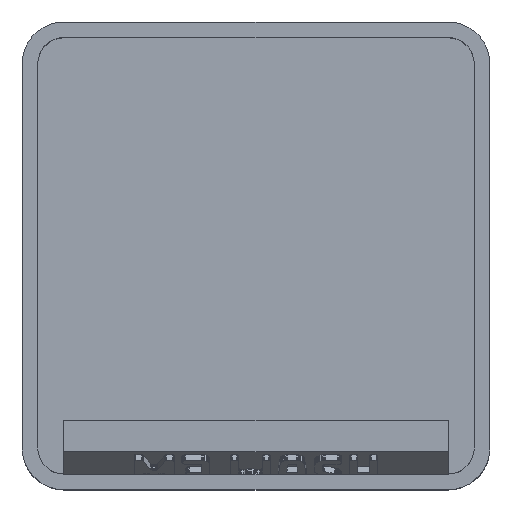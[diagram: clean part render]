
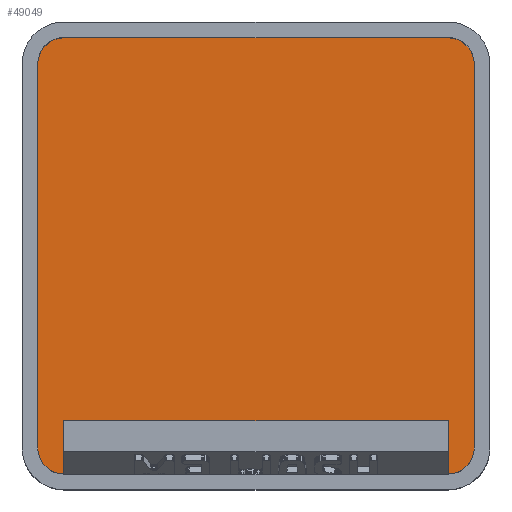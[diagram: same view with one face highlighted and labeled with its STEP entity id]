
A CAD part, top view. The second image highlights one B-rep face of the part: STEP entity #49049.
In plain terms, the highlighted planar face has unit normal (0, 0, 1).
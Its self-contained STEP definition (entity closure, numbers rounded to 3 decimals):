
#912 = PLANE('',#913);
#913 = AXIS2_PLACEMENT_3D('',#914,#915,#916);
#914 = CARTESIAN_POINT('',(-19.6,0.,21.));
#915 = DIRECTION('',(-1.,0.,0.));
#916 = DIRECTION('',(-0.,-1.,-0.));
#940 = CYLINDRICAL_SURFACE('',#941,2.35);
#941 = AXIS2_PLACEMENT_3D('',#942,#943,#944);
#942 = CARTESIAN_POINT('',(-17.25,17.25,5.95));
#943 = DIRECTION('',(-0.,-0.,1.));
#944 = DIRECTION('',(-1.,0.,0.));
#967 = PLANE('',#968);
#968 = AXIS2_PLACEMENT_3D('',#969,#970,#971);
#969 = CARTESIAN_POINT('',(0.,19.6,21.));
#970 = DIRECTION('',(0.,1.,0.));
#971 = DIRECTION('',(-1.,0.,0.));
#995 = CYLINDRICAL_SURFACE('',#996,2.35);
#996 = AXIS2_PLACEMENT_3D('',#997,#998,#999);
#997 = CARTESIAN_POINT('',(17.25,17.25,5.95));
#998 = DIRECTION('',(-0.,-0.,1.));
#999 = DIRECTION('',(-1.,0.,0.));
#1022 = PLANE('',#1023);
#1023 = AXIS2_PLACEMENT_3D('',#1024,#1025,#1026);
#1024 = CARTESIAN_POINT('',(19.6,0.,21.));
#1025 = DIRECTION('',(1.,0.,0.));
#1026 = DIRECTION('',(-0.,1.,0.));
#1050 = CYLINDRICAL_SURFACE('',#1051,2.35);
#1051 = AXIS2_PLACEMENT_3D('',#1052,#1053,#1054);
#1052 = CARTESIAN_POINT('',(17.25,-17.25,5.95));
#1053 = DIRECTION('',(-0.,-0.,1.));
#1054 = DIRECTION('',(-1.,0.,0.));
#1103 = CYLINDRICAL_SURFACE('',#1104,2.35);
#1104 = AXIS2_PLACEMENT_3D('',#1105,#1106,#1107);
#1105 = CARTESIAN_POINT('',(-17.25,-17.25,5.95));
#1106 = DIRECTION('',(-0.,-0.,1.));
#1107 = DIRECTION('',(-1.,0.,0.));
#17971 = EDGE_CURVE('',#17972,#17974,#17976,.T.);
#17972 = VERTEX_POINT('',#17973);
#17973 = CARTESIAN_POINT('',(-19.6,-17.25,5.95));
#17974 = VERTEX_POINT('',#17975);
#17975 = CARTESIAN_POINT('',(-19.6,17.25,5.95));
#17976 = SURFACE_CURVE('',#17977,(#17981,#17988),.PCURVE_S1.);
#17977 = LINE('',#17978,#17979);
#17978 = CARTESIAN_POINT('',(-19.6,0.,5.95));
#17979 = VECTOR('',#17980,1.);
#17980 = DIRECTION('',(0.,1.,0.));
#17981 = PCURVE('',#912,#17982);
#17982 = DEFINITIONAL_REPRESENTATION('',(#17983),#17987);
#17983 = LINE('',#17984,#17985);
#17984 = CARTESIAN_POINT('',(0.,-15.05));
#17985 = VECTOR('',#17986,1.);
#17986 = DIRECTION('',(-1.,0.));
#17987 = ( GEOMETRIC_REPRESENTATION_CONTEXT(2) 
PARAMETRIC_REPRESENTATION_CONTEXT() REPRESENTATION_CONTEXT('2D SPACE',''
  ) );
#17988 = PCURVE('',#17989,#17994);
#17989 = PLANE('',#17990);
#17990 = AXIS2_PLACEMENT_3D('',#17991,#17992,#17993);
#17991 = CARTESIAN_POINT('',(-17.25,-17.25,5.95));
#17992 = DIRECTION('',(0.,0.,-1.));
#17993 = DIRECTION('',(-1.,0.,0.));
#17994 = DEFINITIONAL_REPRESENTATION('',(#17995),#17999);
#17995 = LINE('',#17996,#17997);
#17996 = CARTESIAN_POINT('',(2.35,17.25));
#17997 = VECTOR('',#17998,1.);
#17998 = DIRECTION('',(0.,1.));
#17999 = ( GEOMETRIC_REPRESENTATION_CONTEXT(2) 
PARAMETRIC_REPRESENTATION_CONTEXT() REPRESENTATION_CONTEXT('2D SPACE',''
  ) );
#18046 = EDGE_CURVE('',#18047,#17972,#18049,.T.);
#18047 = VERTEX_POINT('',#18048);
#18048 = CARTESIAN_POINT('',(-17.25,-19.6,5.95));
#18049 = SURFACE_CURVE('',#18050,(#18055,#18062),.PCURVE_S1.);
#18050 = CIRCLE('',#18051,2.35);
#18051 = AXIS2_PLACEMENT_3D('',#18052,#18053,#18054);
#18052 = CARTESIAN_POINT('',(-17.25,-17.25,5.95));
#18053 = DIRECTION('',(0.,0.,-1.));
#18054 = DIRECTION('',(-1.,0.,0.));
#18055 = PCURVE('',#1103,#18056);
#18056 = DEFINITIONAL_REPRESENTATION('',(#18057),#18061);
#18057 = LINE('',#18058,#18059);
#18058 = CARTESIAN_POINT('',(6.283,0.));
#18059 = VECTOR('',#18060,1.);
#18060 = DIRECTION('',(-1.,0.));
#18061 = ( GEOMETRIC_REPRESENTATION_CONTEXT(2) 
PARAMETRIC_REPRESENTATION_CONTEXT() REPRESENTATION_CONTEXT('2D SPACE',''
  ) );
#18062 = PCURVE('',#17989,#18063);
#18063 = DEFINITIONAL_REPRESENTATION('',(#18064),#18068);
#18064 = CIRCLE('',#18065,2.35);
#18065 = AXIS2_PLACEMENT_2D('',#18066,#18067);
#18066 = CARTESIAN_POINT('',(0.,0.));
#18067 = DIRECTION('',(1.,0.));
#18068 = ( GEOMETRIC_REPRESENTATION_CONTEXT(2) 
PARAMETRIC_REPRESENTATION_CONTEXT() REPRESENTATION_CONTEXT('2D SPACE',''
  ) );
#18086 = PLANE('',#18087);
#18087 = AXIS2_PLACEMENT_3D('',#18088,#18089,#18090);
#18088 = CARTESIAN_POINT('',(0.,-19.6,21.));
#18089 = DIRECTION('',(0.,-1.,0.));
#18090 = DIRECTION('',(1.,0.,0.));
#18173 = EDGE_CURVE('',#18174,#18176,#18178,.T.);
#18174 = VERTEX_POINT('',#18175);
#18175 = CARTESIAN_POINT('',(19.6,-17.25,5.95));
#18176 = VERTEX_POINT('',#18177);
#18177 = CARTESIAN_POINT('',(17.25,-19.6,5.95));
#18178 = SURFACE_CURVE('',#18179,(#18184,#18191),.PCURVE_S1.);
#18179 = CIRCLE('',#18180,2.35);
#18180 = AXIS2_PLACEMENT_3D('',#18181,#18182,#18183);
#18181 = CARTESIAN_POINT('',(17.25,-17.25,5.95));
#18182 = DIRECTION('',(0.,0.,-1.));
#18183 = DIRECTION('',(-1.,0.,0.));
#18184 = PCURVE('',#1050,#18185);
#18185 = DEFINITIONAL_REPRESENTATION('',(#18186),#18190);
#18186 = LINE('',#18187,#18188);
#18187 = CARTESIAN_POINT('',(6.283,0.));
#18188 = VECTOR('',#18189,1.);
#18189 = DIRECTION('',(-1.,0.));
#18190 = ( GEOMETRIC_REPRESENTATION_CONTEXT(2) 
PARAMETRIC_REPRESENTATION_CONTEXT() REPRESENTATION_CONTEXT('2D SPACE',''
  ) );
#18191 = PCURVE('',#17989,#18192);
#18192 = DEFINITIONAL_REPRESENTATION('',(#18193),#18197);
#18193 = CIRCLE('',#18194,2.35);
#18194 = AXIS2_PLACEMENT_2D('',#18195,#18196);
#18195 = CARTESIAN_POINT('',(-34.5,0.));
#18196 = DIRECTION('',(1.,0.));
#18197 = ( GEOMETRIC_REPRESENTATION_CONTEXT(2) 
PARAMETRIC_REPRESENTATION_CONTEXT() REPRESENTATION_CONTEXT('2D SPACE',''
  ) );
#18271 = EDGE_CURVE('',#18174,#18272,#18274,.T.);
#18272 = VERTEX_POINT('',#18273);
#18273 = CARTESIAN_POINT('',(19.6,17.25,5.95));
#18274 = SURFACE_CURVE('',#18275,(#18279,#18286),.PCURVE_S1.);
#18275 = LINE('',#18276,#18277);
#18276 = CARTESIAN_POINT('',(19.6,0.,5.95));
#18277 = VECTOR('',#18278,1.);
#18278 = DIRECTION('',(0.,1.,0.));
#18279 = PCURVE('',#1022,#18280);
#18280 = DEFINITIONAL_REPRESENTATION('',(#18281),#18285);
#18281 = LINE('',#18282,#18283);
#18282 = CARTESIAN_POINT('',(0.,-15.05));
#18283 = VECTOR('',#18284,1.);
#18284 = DIRECTION('',(1.,0.));
#18285 = ( GEOMETRIC_REPRESENTATION_CONTEXT(2) 
PARAMETRIC_REPRESENTATION_CONTEXT() REPRESENTATION_CONTEXT('2D SPACE',''
  ) );
#18286 = PCURVE('',#17989,#18287);
#18287 = DEFINITIONAL_REPRESENTATION('',(#18288),#18292);
#18288 = LINE('',#18289,#18290);
#18289 = CARTESIAN_POINT('',(-36.85,17.25));
#18290 = VECTOR('',#18291,1.);
#18291 = DIRECTION('',(0.,1.));
#18292 = ( GEOMETRIC_REPRESENTATION_CONTEXT(2) 
PARAMETRIC_REPRESENTATION_CONTEXT() REPRESENTATION_CONTEXT('2D SPACE',''
  ) );
#18319 = EDGE_CURVE('',#18320,#18272,#18322,.T.);
#18320 = VERTEX_POINT('',#18321);
#18321 = CARTESIAN_POINT('',(17.25,19.6,5.95));
#18322 = SURFACE_CURVE('',#18323,(#18328,#18335),.PCURVE_S1.);
#18323 = CIRCLE('',#18324,2.35);
#18324 = AXIS2_PLACEMENT_3D('',#18325,#18326,#18327);
#18325 = CARTESIAN_POINT('',(17.25,17.25,5.95));
#18326 = DIRECTION('',(0.,0.,-1.));
#18327 = DIRECTION('',(-1.,0.,0.));
#18328 = PCURVE('',#995,#18329);
#18329 = DEFINITIONAL_REPRESENTATION('',(#18330),#18334);
#18330 = LINE('',#18331,#18332);
#18331 = CARTESIAN_POINT('',(6.283,0.));
#18332 = VECTOR('',#18333,1.);
#18333 = DIRECTION('',(-1.,0.));
#18334 = ( GEOMETRIC_REPRESENTATION_CONTEXT(2) 
PARAMETRIC_REPRESENTATION_CONTEXT() REPRESENTATION_CONTEXT('2D SPACE',''
  ) );
#18335 = PCURVE('',#17989,#18336);
#18336 = DEFINITIONAL_REPRESENTATION('',(#18337),#18341);
#18337 = CIRCLE('',#18338,2.35);
#18338 = AXIS2_PLACEMENT_2D('',#18339,#18340);
#18339 = CARTESIAN_POINT('',(-34.5,34.5));
#18340 = DIRECTION('',(1.,0.));
#18341 = ( GEOMETRIC_REPRESENTATION_CONTEXT(2) 
PARAMETRIC_REPRESENTATION_CONTEXT() REPRESENTATION_CONTEXT('2D SPACE',''
  ) );
#18369 = EDGE_CURVE('',#18370,#18320,#18372,.T.);
#18370 = VERTEX_POINT('',#18371);
#18371 = CARTESIAN_POINT('',(-17.25,19.6,5.95));
#18372 = SURFACE_CURVE('',#18373,(#18377,#18384),.PCURVE_S1.);
#18373 = LINE('',#18374,#18375);
#18374 = CARTESIAN_POINT('',(0.,19.6,5.95));
#18375 = VECTOR('',#18376,1.);
#18376 = DIRECTION('',(1.,0.,0.));
#18377 = PCURVE('',#967,#18378);
#18378 = DEFINITIONAL_REPRESENTATION('',(#18379),#18383);
#18379 = LINE('',#18380,#18381);
#18380 = CARTESIAN_POINT('',(0.,-15.05));
#18381 = VECTOR('',#18382,1.);
#18382 = DIRECTION('',(-1.,0.));
#18383 = ( GEOMETRIC_REPRESENTATION_CONTEXT(2) 
PARAMETRIC_REPRESENTATION_CONTEXT() REPRESENTATION_CONTEXT('2D SPACE',''
  ) );
#18384 = PCURVE('',#17989,#18385);
#18385 = DEFINITIONAL_REPRESENTATION('',(#18386),#18390);
#18386 = LINE('',#18387,#18388);
#18387 = CARTESIAN_POINT('',(-17.25,36.85));
#18388 = VECTOR('',#18389,1.);
#18389 = DIRECTION('',(-1.,0.));
#18390 = ( GEOMETRIC_REPRESENTATION_CONTEXT(2) 
PARAMETRIC_REPRESENTATION_CONTEXT() REPRESENTATION_CONTEXT('2D SPACE',''
  ) );
#18418 = EDGE_CURVE('',#17974,#18370,#18419,.T.);
#18419 = SURFACE_CURVE('',#18420,(#18425,#18432),.PCURVE_S1.);
#18420 = CIRCLE('',#18421,2.35);
#18421 = AXIS2_PLACEMENT_3D('',#18422,#18423,#18424);
#18422 = CARTESIAN_POINT('',(-17.25,17.25,5.95));
#18423 = DIRECTION('',(0.,0.,-1.));
#18424 = DIRECTION('',(-1.,0.,0.));
#18425 = PCURVE('',#940,#18426);
#18426 = DEFINITIONAL_REPRESENTATION('',(#18427),#18431);
#18427 = LINE('',#18428,#18429);
#18428 = CARTESIAN_POINT('',(6.283,0.));
#18429 = VECTOR('',#18430,1.);
#18430 = DIRECTION('',(-1.,0.));
#18431 = ( GEOMETRIC_REPRESENTATION_CONTEXT(2) 
PARAMETRIC_REPRESENTATION_CONTEXT() REPRESENTATION_CONTEXT('2D SPACE',''
  ) );
#18432 = PCURVE('',#17989,#18433);
#18433 = DEFINITIONAL_REPRESENTATION('',(#18434),#18438);
#18434 = CIRCLE('',#18435,2.35);
#18435 = AXIS2_PLACEMENT_2D('',#18436,#18437);
#18436 = CARTESIAN_POINT('',(0.,34.5));
#18437 = DIRECTION('',(1.,0.));
#18438 = ( GEOMETRIC_REPRESENTATION_CONTEXT(2) 
PARAMETRIC_REPRESENTATION_CONTEXT() REPRESENTATION_CONTEXT('2D SPACE',''
  ) );
#49049 = ADVANCED_FACE('',(#49050),#17989,.F.);
#49050 = FACE_BOUND('',#49051,.T.);
#49051 = EDGE_LOOP('',(#49052,#49053,#49054,#49075,#49076,#49077,#49078,
    #49079));
#49052 = ORIENTED_EDGE('',*,*,#17971,.F.);
#49053 = ORIENTED_EDGE('',*,*,#18046,.F.);
#49054 = ORIENTED_EDGE('',*,*,#49055,.T.);
#49055 = EDGE_CURVE('',#18047,#18176,#49056,.T.);
#49056 = SURFACE_CURVE('',#49057,(#49061,#49068),.PCURVE_S1.);
#49057 = LINE('',#49058,#49059);
#49058 = CARTESIAN_POINT('',(0.,-19.6,5.95));
#49059 = VECTOR('',#49060,1.);
#49060 = DIRECTION('',(1.,0.,0.));
#49061 = PCURVE('',#17989,#49062);
#49062 = DEFINITIONAL_REPRESENTATION('',(#49063),#49067);
#49063 = LINE('',#49064,#49065);
#49064 = CARTESIAN_POINT('',(-17.25,-2.35));
#49065 = VECTOR('',#49066,1.);
#49066 = DIRECTION('',(-1.,0.));
#49067 = ( GEOMETRIC_REPRESENTATION_CONTEXT(2) 
PARAMETRIC_REPRESENTATION_CONTEXT() REPRESENTATION_CONTEXT('2D SPACE',''
  ) );
#49068 = PCURVE('',#18086,#49069);
#49069 = DEFINITIONAL_REPRESENTATION('',(#49070),#49074);
#49070 = LINE('',#49071,#49072);
#49071 = CARTESIAN_POINT('',(0.,-15.05));
#49072 = VECTOR('',#49073,1.);
#49073 = DIRECTION('',(1.,0.));
#49074 = ( GEOMETRIC_REPRESENTATION_CONTEXT(2) 
PARAMETRIC_REPRESENTATION_CONTEXT() REPRESENTATION_CONTEXT('2D SPACE',''
  ) );
#49075 = ORIENTED_EDGE('',*,*,#18173,.F.);
#49076 = ORIENTED_EDGE('',*,*,#18271,.T.);
#49077 = ORIENTED_EDGE('',*,*,#18319,.F.);
#49078 = ORIENTED_EDGE('',*,*,#18369,.F.);
#49079 = ORIENTED_EDGE('',*,*,#18418,.F.);
